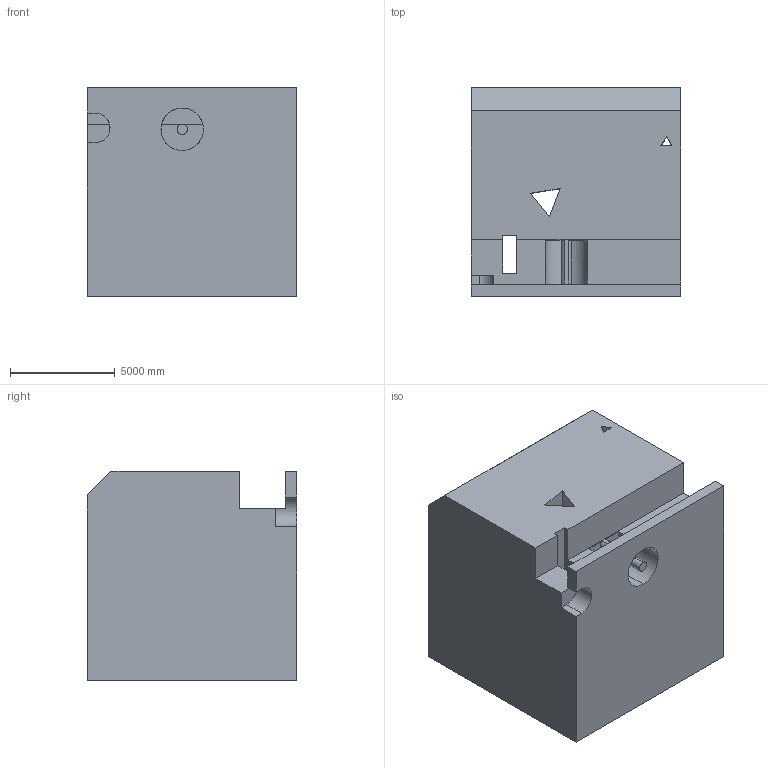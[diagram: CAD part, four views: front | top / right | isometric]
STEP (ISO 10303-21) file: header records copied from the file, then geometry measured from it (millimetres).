
FILE_DESCRIPTION (( 'STEP AP203' ), '1' );
FILE_NAME ('192.STEP', '2022-09-06T13:39:30', ( 'user' ), ( '' ), 'SwSTEP 2.0', 'SolidWorks 2021', '' );
FILE_SCHEMA (( 'CONFIG_CONTROL_DESIGN' ));
Length unit declared in the file: centimetre
Products named in the file (1): 192
Bounding box: 10000 x 10000 x 10000 mm (x, y, z)
Volume: 918420425615.9 mm3; surface area: 744800285.4 mm2
Topology: 1 solids, 1 shells, 51 faces, 150 edges, 100 vertices
Faces by surface type: plane 45, cylinder 6
Entity records: 1778 total; most frequent: CARTESIAN_POINT 302, ORIENTED_EDGE 300, DIRECTION 271, EDGE_CURVE 150, LINE 133, VECTOR 133, VERTEX_POINT 100, AXIS2_PLACEMENT_3D 69
